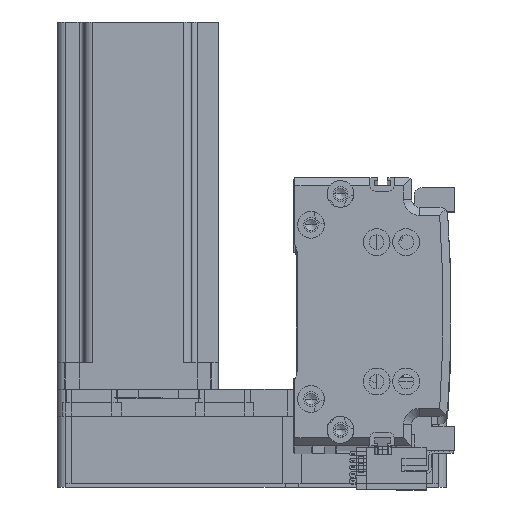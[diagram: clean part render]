
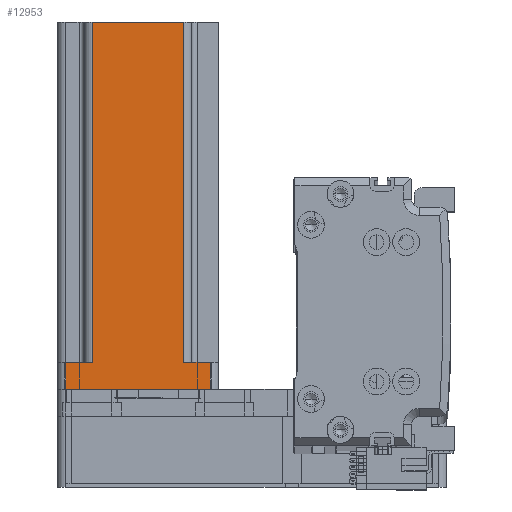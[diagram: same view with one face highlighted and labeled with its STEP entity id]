
A CAD part, top view. The second image highlights one B-rep face of the part: STEP entity #12953.
In plain terms, the highlighted planar face has unit normal (0, 0, 1) as drawn and (0, 1, 0) by its records, which use the part's own axes.
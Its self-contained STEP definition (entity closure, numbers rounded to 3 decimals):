
#753 = LINE ( 'NONE', #22821, #25932 ) ;
#2728 = VECTOR ( 'NONE', #22904, 1000. ) ;
#6870 = PLANE ( 'NONE',  #9530 ) ;
#7112 = CARTESIAN_POINT ( 'NONE',  ( -17., 30., 10. ) ) ;
#7222 = FACE_OUTER_BOUND ( 'NONE', #42552, .T. ) ;
#9530 = AXIS2_PLACEMENT_3D ( 'NONE', #16585, #49660, #21340 ) ;
#10410 = ORIENTED_EDGE ( 'NONE', *, *, #54333, .F. ) ;
#12289 = DIRECTION ( 'NONE',  ( -1., 0., 0. ) ) ;
#12953 = ADVANCED_FACE ( 'NONE', ( #7222 ), #6870, .F. ) ;
#15274 = LINE ( 'NONE', #46442, #2728 ) ;
#15558 = CARTESIAN_POINT ( 'NONE',  ( 27., 30., 0. ) ) ;
#16444 = VERTEX_POINT ( 'NONE', #39833 ) ;
#16585 = CARTESIAN_POINT ( 'NONE',  ( 30., 30., 137. ) ) ;
#16682 = ORIENTED_EDGE ( 'NONE', *, *, #44110, .T. ) ;
#16726 = CARTESIAN_POINT ( 'NONE',  ( 27., 30., 10. ) ) ;
#17152 = DIRECTION ( 'NONE',  ( 0., 0., -1. ) ) ;
#17468 = VECTOR ( 'NONE', #51820, 1000. ) ;
#21187 = LINE ( 'NONE', #34709, #60354 ) ;
#21340 = DIRECTION ( 'NONE',  ( 1., 0., 0. ) ) ;
#21536 = VECTOR ( 'NONE', #17152, 1000. ) ;
#22022 = EDGE_CURVE ( 'NONE', #33773, #32374, #48155, .T. ) ;
#22821 = CARTESIAN_POINT ( 'NONE',  ( 17., 30., 137. ) ) ;
#22904 = DIRECTION ( 'NONE',  ( 1., 0., 0. ) ) ;
#23529 = CARTESIAN_POINT ( 'NONE',  ( 20., 30., 10. ) ) ;
#23931 = CARTESIAN_POINT ( 'NONE',  ( 17., 30., 10. ) ) ;
#25145 = VERTEX_POINT ( 'NONE', #33915 ) ;
#25932 = VECTOR ( 'NONE', #27404, 1000. ) ;
#27080 = CARTESIAN_POINT ( 'NONE',  ( -27., 30., 0. ) ) ;
#27404 = DIRECTION ( 'NONE',  ( 0., 0., -1. ) ) ;
#27728 = ORIENTED_EDGE ( 'NONE', *, *, #45450, .F. ) ;
#28553 = VERTEX_POINT ( 'NONE', #37148 ) ;
#28828 = ORIENTED_EDGE ( 'NONE', *, *, #31562, .T. ) ;
#31232 = VERTEX_POINT ( 'NONE', #7112 ) ;
#31562 = EDGE_CURVE ( 'NONE', #25145, #31232, #15274, .T. ) ;
#31632 = DIRECTION ( 'NONE',  ( 0., 0., 1. ) ) ;
#32374 = VERTEX_POINT ( 'NONE', #15558 ) ;
#33459 = ORIENTED_EDGE ( 'NONE', *, *, #56592, .T. ) ;
#33773 = VERTEX_POINT ( 'NONE', #16726 ) ;
#33915 = CARTESIAN_POINT ( 'NONE',  ( -27., 30., 10. ) ) ;
#34709 = CARTESIAN_POINT ( 'NONE',  ( -17., 30., 137. ) ) ;
#34913 = DIRECTION ( 'NONE',  ( 0., 0., 1. ) ) ;
#35415 = VECTOR ( 'NONE', #48901, 1000. ) ;
#35600 = EDGE_CURVE ( 'NONE', #31232, #28553, #21187, .T. ) ;
#35860 = CARTESIAN_POINT ( 'NONE',  ( 30., 30., 0. ) ) ;
#37148 = CARTESIAN_POINT ( 'NONE',  ( -17., 30., 137. ) ) ;
#39833 = CARTESIAN_POINT ( 'NONE',  ( 17., 30., 137. ) ) ;
#39913 = VECTOR ( 'NONE', #31632, 1000. ) ;
#40714 = CARTESIAN_POINT ( 'NONE',  ( 27., 30., 137. ) ) ;
#42552 = EDGE_LOOP ( 'NONE', ( #28828, #49439, #27728, #33459, #10410, #47392, #16682, #59717 ) ) ;
#44110 = EDGE_CURVE ( 'NONE', #32374, #52571, #45320, .T. ) ;
#44113 = LINE ( 'NONE', #23529, #17468 ) ;
#45119 = EDGE_CURVE ( 'NONE', #52571, #25145, #52478, .T. ) ;
#45320 = LINE ( 'NONE', #35860, #59344 ) ;
#45450 = EDGE_CURVE ( 'NONE', #16444, #28553, #47976, .T. ) ;
#46442 = CARTESIAN_POINT ( 'NONE',  ( -20., 30., 10. ) ) ;
#47392 = ORIENTED_EDGE ( 'NONE', *, *, #22022, .T. ) ;
#47976 = LINE ( 'NONE', #52412, #35415 ) ;
#48155 = LINE ( 'NONE', #40714, #21536 ) ;
#48901 = DIRECTION ( 'NONE',  ( -1., 0., 0. ) ) ;
#49439 = ORIENTED_EDGE ( 'NONE', *, *, #35600, .T. ) ;
#49660 = DIRECTION ( 'NONE',  ( 0., -1., 0. ) ) ;
#50401 = CARTESIAN_POINT ( 'NONE',  ( -27., 30., 137. ) ) ;
#51820 = DIRECTION ( 'NONE',  ( -1., 0., 0. ) ) ;
#52412 = CARTESIAN_POINT ( 'NONE',  ( 30., 30., 137. ) ) ;
#52478 = LINE ( 'NONE', #50401, #39913 ) ;
#52571 = VERTEX_POINT ( 'NONE', #27080 ) ;
#54333 = EDGE_CURVE ( 'NONE', #33773, #56254, #44113, .T. ) ;
#56254 = VERTEX_POINT ( 'NONE', #23931 ) ;
#56592 = EDGE_CURVE ( 'NONE', #16444, #56254, #753, .T. ) ;
#59344 = VECTOR ( 'NONE', #12289, 1000. ) ;
#59717 = ORIENTED_EDGE ( 'NONE', *, *, #45119, .T. ) ;
#60354 = VECTOR ( 'NONE', #34913, 1000. ) ;
